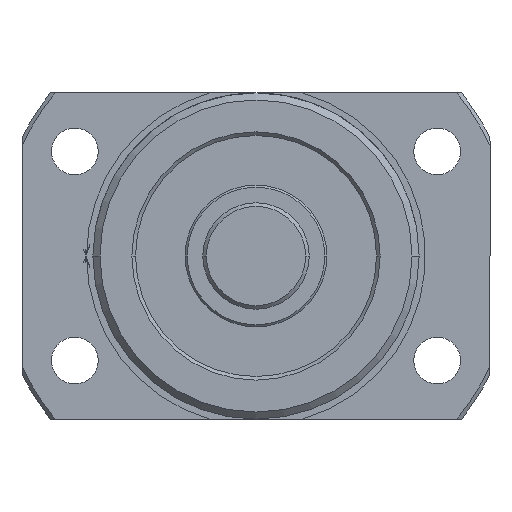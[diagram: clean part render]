
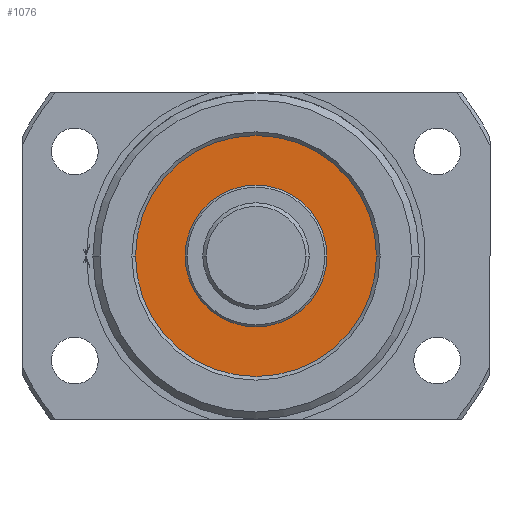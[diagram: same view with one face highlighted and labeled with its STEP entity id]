
A CAD part, left-side view. The second image highlights one B-rep face of the part: STEP entity #1076.
In plain terms, the highlighted planar face has unit normal (-1, 0, 0).
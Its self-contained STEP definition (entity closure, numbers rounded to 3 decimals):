
#25 = VERTEX_POINT ( 'NONE', #2023 ) ;
#36 = VERTEX_POINT ( 'NONE', #2012 ) ;
#335 = CIRCLE ( 'NONE', #3782, 17. ) ;
#461 = CIRCLE ( 'NONE', #4551, 17. ) ;
#485 = CIRCLE ( 'NONE', #4570, 10. ) ;
#1030 = CIRCLE ( 'NONE', #4519, 10. ) ;
#1076 = ADVANCED_FACE ( 'NONE', ( #3044, #3036 ), #4375, .T. ) ;
#1473 = VERTEX_POINT ( 'NONE', #4921 ) ;
#1779 = CARTESIAN_POINT ( 'NONE',  ( -69.5, 0., 0. ) ) ;
#1780 = DIRECTION ( 'NONE',  ( -1., 0., 0. ) ) ;
#1782 = DIRECTION ( 'NONE',  ( 0., -1., 0. ) ) ;
#2012 = CARTESIAN_POINT ( 'NONE',  ( -69.5, -17., 0. ) ) ;
#2023 = CARTESIAN_POINT ( 'NONE',  ( -69.5, 17., 0. ) ) ;
#2128 = CARTESIAN_POINT ( 'NONE',  ( -69.5, 0., 0. ) ) ;
#2129 = DIRECTION ( 'NONE',  ( -1., 0., 0. ) ) ;
#2130 = DIRECTION ( 'NONE',  ( 0., -1., 0. ) ) ;
#2329 = EDGE_CURVE ( 'NONE', #25, #36, #335, .T. ) ;
#2505 = AXIS2_PLACEMENT_3D ( 'NONE', #4369, #4366, #4386 ) ;
#3036 = FACE_OUTER_BOUND ( 'NONE', #3923, .T. ) ;
#3044 = FACE_BOUND ( 'NONE', #3914, .T. ) ;
#3782 = AXIS2_PLACEMENT_3D ( 'NONE', #5053, #5054, #5055 ) ;
#3914 = EDGE_LOOP ( 'NONE', ( #5822, #5823 ) ) ;
#3923 = EDGE_LOOP ( 'NONE', ( #5824, #5825 ) ) ;
#3972 = VERTEX_POINT ( 'NONE', #3988 ) ;
#3988 = CARTESIAN_POINT ( 'NONE',  ( -69.5, 0., -10. ) ) ;
#4080 = CARTESIAN_POINT ( 'NONE',  ( -69.5, 0., 0. ) ) ;
#4081 = DIRECTION ( 'NONE',  ( -1., 0., 0. ) ) ;
#4082 = DIRECTION ( 'NONE',  ( 0., -1., 0. ) ) ;
#4366 = DIRECTION ( 'NONE',  ( -1., 0., 0. ) ) ;
#4369 = CARTESIAN_POINT ( 'NONE',  ( -69.5, 0., 0. ) ) ;
#4375 = PLANE ( 'NONE',  #2505 ) ;
#4386 = DIRECTION ( 'NONE',  ( 0., -1., 0. ) ) ;
#4519 = AXIS2_PLACEMENT_3D ( 'NONE', #4080, #4081, #4082 ) ;
#4551 = AXIS2_PLACEMENT_3D ( 'NONE', #2128, #2129, #2130 ) ;
#4570 = AXIS2_PLACEMENT_3D ( 'NONE', #1779, #1780, #1782 ) ;
#4921 = CARTESIAN_POINT ( 'NONE',  ( -69.5, 0., 10. ) ) ;
#5053 = CARTESIAN_POINT ( 'NONE',  ( -69.5, 0., 0. ) ) ;
#5054 = DIRECTION ( 'NONE',  ( -1., 0., 0. ) ) ;
#5055 = DIRECTION ( 'NONE',  ( 0., -1., 0. ) ) ;
#5190 = EDGE_CURVE ( 'NONE', #3972, #1473, #1030, .T. ) ;
#5258 = EDGE_CURVE ( 'NONE', #36, #25, #461, .T. ) ;
#5289 = EDGE_CURVE ( 'NONE', #1473, #3972, #485, .T. ) ;
#5822 = ORIENTED_EDGE ( 'NONE', *, *, #5190, .F. ) ;
#5823 = ORIENTED_EDGE ( 'NONE', *, *, #5289, .F. ) ;
#5824 = ORIENTED_EDGE ( 'NONE', *, *, #5258, .T. ) ;
#5825 = ORIENTED_EDGE ( 'NONE', *, *, #2329, .T. ) ;
